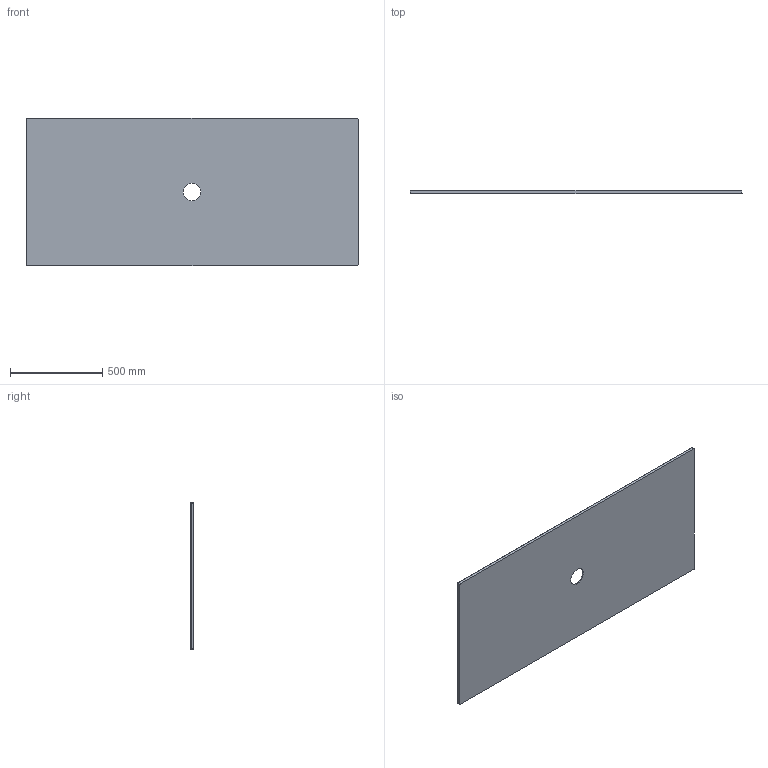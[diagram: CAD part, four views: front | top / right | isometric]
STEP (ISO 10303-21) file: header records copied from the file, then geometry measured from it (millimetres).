
FILE_DESCRIPTION (( 'STEP AP203' ), '1' );
FILE_NAME ('SDPD18008020.STEP', '2023-04-03T08:28:36', ( '' ), ( '' ), 'SwSTEP 2.0', 'SolidWorks 2023', '' );
FILE_SCHEMA (( 'CONFIG_CONTROL_DESIGN' ));
Length unit declared in the file: millimetre
Products named in the file (1): SDPD18008020
Bounding box: 1800 x 20 x 800 mm (x, y, z)
Volume: 24464560.6 mm3; surface area: 2947244.6 mm2
Topology: 1 solids, 1 shells, 26 faces, 62 edges, 40 vertices
Faces by surface type: cylinder 9, plane 8, bspline 8, cone 1
Full cylindrical faces by diameter (mm): 95 x1
Entity records: 4185 total; most frequent: CARTESIAN_POINT 3600, ORIENTED_EDGE 104, DIRECTION 92, EDGE_CURVE 52, EDGE_LOOP 36, VERTEX_POINT 36, AXIS2_PLACEMENT_3D 36, FACE_OUTER_BOUND 31
